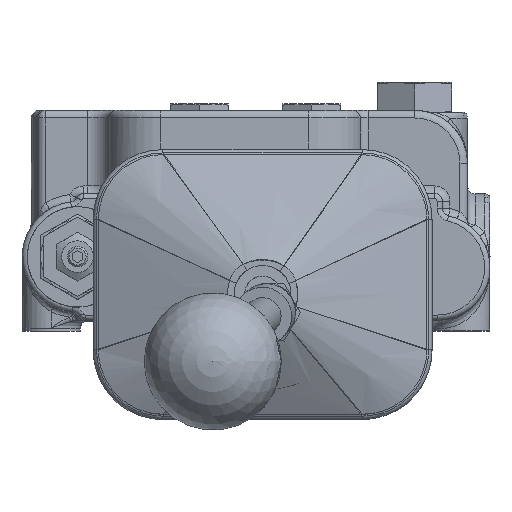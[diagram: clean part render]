
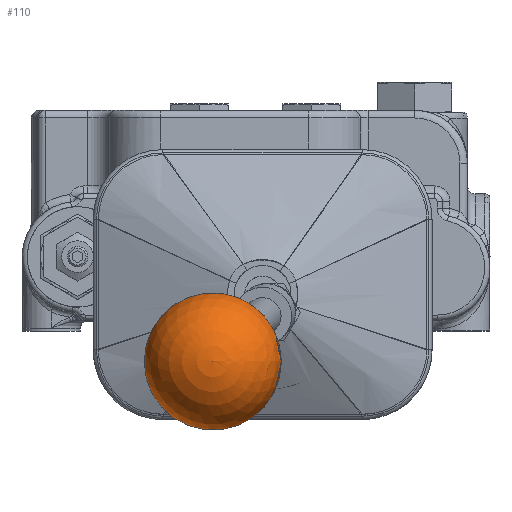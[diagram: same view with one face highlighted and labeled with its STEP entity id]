
A CAD part, top view. The second image highlights one B-rep face of the part: STEP entity #110.
In plain terms, the highlighted spherical face has radius 20.637 mm.
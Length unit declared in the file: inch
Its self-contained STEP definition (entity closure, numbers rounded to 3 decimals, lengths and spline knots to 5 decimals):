
#79=CARTESIAN_POINT('',(0.24371,-0.96132,8.6094));
#80=VERTEX_POINT('',#79);
#81=CARTESIAN_POINT('',(0.24271,-1.17904,8.58821));
#82=DIRECTION('',(0.104,0.096,-0.99));
#83=DIRECTION('',(0.005,0.995,0.097));
#84=AXIS2_PLACEMENT_3D('',#81,#82,#83);
#85=CIRCLE('',#84,0.21875);
#86=EDGE_CURVE('',#80,#80,#85,.T.);
#102=CARTESIAN_POINT('',(0.16169,-1.25406,9.36288));
#103=DIRECTION('',(0.0,0.0,1.0));
#104=DIRECTION('',(1.0,0.0,0.0));
#105=AXIS2_PLACEMENT_3D('',#102,#103,#104);
#106=SPHERICAL_SURFACE('',#105,0.8125);
#107=ORIENTED_EDGE('',*,*,#86,.F.);
#108=EDGE_LOOP('',(#107));
#109=FACE_OUTER_BOUND('',#108,.T.);
#110=ADVANCED_FACE('',(#109),#106,.T.);
